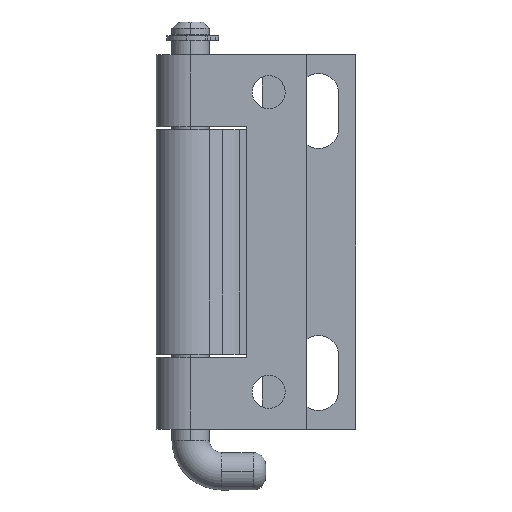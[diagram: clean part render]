
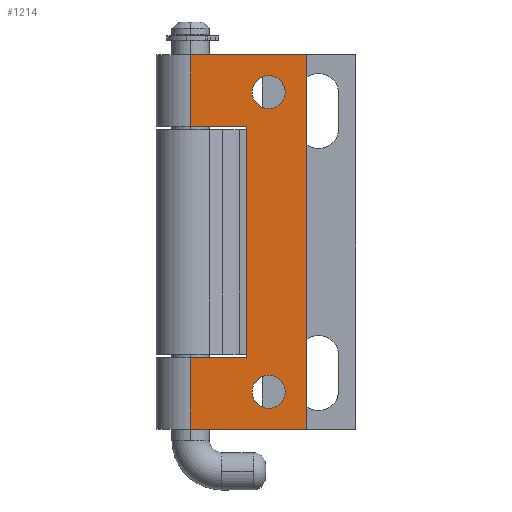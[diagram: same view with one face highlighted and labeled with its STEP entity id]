
A CAD part, top view. The second image highlights one B-rep face of the part: STEP entity #1214.
In plain terms, the highlighted planar face has unit normal (0, 0, 1) as drawn and (1, 0, 0) by its records, which use the part's own axes.
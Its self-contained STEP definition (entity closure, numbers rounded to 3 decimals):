
#931 = VERTEX_POINT ( 'NONE', #3152 ) ;
#950 = VERTEX_POINT ( 'NONE', #3194 ) ;
#952 = EDGE_CURVE ( 'NONE', #1018, #950, #3193, .T. ) ;
#974 = VERTEX_POINT ( 'NONE', #3268 ) ;
#975 = VERTEX_POINT ( 'NONE', #3267 ) ;
#980 = EDGE_CURVE ( 'NONE', #975, #974, #3261, .T. ) ;
#997 = EDGE_CURVE ( 'NONE', #931, #1006, #3294, .T. ) ;
#1006 = VERTEX_POINT ( 'NONE', #3338 ) ;
#1018 = VERTEX_POINT ( 'NONE', #3316 ) ;
#1030 = VERTEX_POINT ( 'NONE', #3396 ) ;
#1033 = EDGE_CURVE ( 'NONE', #1037, #1030, #3394, .T. ) ;
#1037 = VERTEX_POINT ( 'NONE', #3385 ) ;
#1138 = EDGE_CURVE ( 'NONE', #1030, #1037, #3541, .T. ) ;
#1139 = ORIENTED_EDGE ( 'NONE', *, *, #1033, .T. ) ;
#1140 = EDGE_LOOP ( 'NONE', ( #1141, #1143 ) ) ;
#1141 = ORIENTED_EDGE ( 'NONE', *, *, #1142, .T. ) ;
#1142 = EDGE_CURVE ( 'NONE', #974, #975, #3537, .T. ) ;
#1143 = ORIENTED_EDGE ( 'NONE', *, *, #980, .T. ) ;
#1144 = EDGE_LOOP ( 'NONE', ( #1145, #1200, #1202, #1203, #1206, #1209, #1211, #1183 ) ) ;
#1145 = ORIENTED_EDGE ( 'NONE', *, *, #1146, .T. ) ;
#1146 = EDGE_CURVE ( 'NONE', #1198, #1199, #3593, .T. ) ;
#1183 = ORIENTED_EDGE ( 'NONE', *, *, #1184, .T. ) ;
#1184 = EDGE_CURVE ( 'NONE', #950, #1198, #3602, .T. ) ;
#1198 = VERTEX_POINT ( 'NONE', #3638 ) ;
#1199 = VERTEX_POINT ( 'NONE', #3637 ) ;
#1200 = ORIENTED_EDGE ( 'NONE', *, *, #1201, .T. ) ;
#1201 = EDGE_CURVE ( 'NONE', #1199, #931, #3636, .T. ) ;
#1202 = ORIENTED_EDGE ( 'NONE', *, *, #997, .T. ) ;
#1203 = ORIENTED_EDGE ( 'NONE', *, *, #1204, .T. ) ;
#1204 = EDGE_CURVE ( 'NONE', #1006, #1205, #3632, .T. ) ;
#1205 = VERTEX_POINT ( 'NONE', #3697 ) ;
#1206 = ORIENTED_EDGE ( 'NONE', *, *, #1207, .F. ) ;
#1207 = EDGE_CURVE ( 'NONE', #1208, #1205, #3696, .T. ) ;
#1208 = VERTEX_POINT ( 'NONE', #3692 ) ;
#1209 = ORIENTED_EDGE ( 'NONE', *, *, #1210, .F. ) ;
#1210 = EDGE_CURVE ( 'NONE', #1018, #1208, #3691, .T. ) ;
#1211 = ORIENTED_EDGE ( 'NONE', *, *, #952, .T. ) ;
#1214 = ADVANCED_FACE ( 'NONE', ( #3682, #3681, #3680 ), #3679, .F. ) ;
#1215 = EDGE_LOOP ( 'NONE', ( #1216, #1139 ) ) ;
#1216 = ORIENTED_EDGE ( 'NONE', *, *, #1138, .T. ) ;
#3152 = CARTESIAN_POINT ( 'NONE',  ( 5.5, 0., 11.5 ) ) ;
#3190 = DIRECTION ( 'NONE',  ( 0., 0., -1. ) ) ;
#3191 = VECTOR ( 'NONE', #3190, 1000. ) ;
#3192 = CARTESIAN_POINT ( 'NONE',  ( 5.5, 0., 60. ) ) ;
#3193 = LINE ( 'NONE', #3192, #3191 ) ;
#3194 = CARTESIAN_POINT ( 'NONE',  ( 5.5, 0., 48.5 ) ) ;
#3257 = DIRECTION ( 'NONE',  ( 0., 0., 1. ) ) ;
#3258 = DIRECTION ( 'NONE',  ( -1., 0., 0. ) ) ;
#3259 = CARTESIAN_POINT ( 'NONE',  ( 5.5, 12.5, 54. ) ) ;
#3260 = AXIS2_PLACEMENT_3D ( 'NONE', #3259, #3258, #3257 ) ;
#3261 = CIRCLE ( 'NONE', #3260, 2.65 ) ;
#3267 = CARTESIAN_POINT ( 'NONE',  ( 5.5, 15.15, 54. ) ) ;
#3268 = CARTESIAN_POINT ( 'NONE',  ( 5.5, 9.85, 54. ) ) ;
#3291 = DIRECTION ( 'NONE',  ( 0., 0., -1. ) ) ;
#3292 = VECTOR ( 'NONE', #3291, 1000. ) ;
#3293 = CARTESIAN_POINT ( 'NONE',  ( 5.5, 0., 60. ) ) ;
#3294 = LINE ( 'NONE', #3293, #3292 ) ;
#3316 = CARTESIAN_POINT ( 'NONE',  ( 5.5, 0., 60. ) ) ;
#3338 = CARTESIAN_POINT ( 'NONE',  ( 5.5, 0., 0. ) ) ;
#3385 = CARTESIAN_POINT ( 'NONE',  ( 5.5, 15.15, 6. ) ) ;
#3390 = DIRECTION ( 'NONE',  ( 0., 0., 1. ) ) ;
#3391 = DIRECTION ( 'NONE',  ( -1., 0., 0. ) ) ;
#3392 = CARTESIAN_POINT ( 'NONE',  ( 5.5, 12.5, 6. ) ) ;
#3393 = AXIS2_PLACEMENT_3D ( 'NONE', #3392, #3391, #3390 ) ;
#3394 = CIRCLE ( 'NONE', #3393, 2.65 ) ;
#3396 = CARTESIAN_POINT ( 'NONE',  ( 5.5, 9.85, 6. ) ) ;
#3533 = DIRECTION ( 'NONE',  ( 0., 0., 1. ) ) ;
#3534 = DIRECTION ( 'NONE',  ( -1., 0., 0. ) ) ;
#3535 = CARTESIAN_POINT ( 'NONE',  ( 5.5, 12.5, 54. ) ) ;
#3536 = AXIS2_PLACEMENT_3D ( 'NONE', #3535, #3534, #3533 ) ;
#3537 = CIRCLE ( 'NONE', #3536, 2.65 ) ;
#3538 = DIRECTION ( 'NONE',  ( 0., 0., 1. ) ) ;
#3539 = DIRECTION ( 'NONE',  ( -1., 0., 0. ) ) ;
#3540 = AXIS2_PLACEMENT_3D ( 'NONE', #3546, #3539, #3538 ) ;
#3541 = CIRCLE ( 'NONE', #3540, 2.65 ) ;
#3546 = CARTESIAN_POINT ( 'NONE',  ( 5.5, 12.5, 6. ) ) ;
#3590 = DIRECTION ( 'NONE',  ( 0., 0., -1. ) ) ;
#3591 = VECTOR ( 'NONE', #3590, 1000. ) ;
#3592 = CARTESIAN_POINT ( 'NONE',  ( 5.5, 9., 60. ) ) ;
#3593 = LINE ( 'NONE', #3592, #3591 ) ;
#3599 = DIRECTION ( 'NONE',  ( 0., 1., 0. ) ) ;
#3600 = VECTOR ( 'NONE', #3599, 1000. ) ;
#3601 = CARTESIAN_POINT ( 'NONE',  ( 5.5, 0., 48.5 ) ) ;
#3602 = LINE ( 'NONE', #3601, #3600 ) ;
#3629 = DIRECTION ( 'NONE',  ( 0., 1., 0. ) ) ;
#3630 = VECTOR ( 'NONE', #3629, 1000. ) ;
#3631 = CARTESIAN_POINT ( 'NONE',  ( 5.5, 0., 0. ) ) ;
#3632 = LINE ( 'NONE', #3631, #3630 ) ;
#3633 = DIRECTION ( 'NONE',  ( 0., -1., 0. ) ) ;
#3634 = VECTOR ( 'NONE', #3633, 1000. ) ;
#3635 = CARTESIAN_POINT ( 'NONE',  ( 5.5, 0., 11.5 ) ) ;
#3636 = LINE ( 'NONE', #3635, #3634 ) ;
#3637 = CARTESIAN_POINT ( 'NONE',  ( 5.5, 9., 11.5 ) ) ;
#3638 = CARTESIAN_POINT ( 'NONE',  ( 5.5, 9., 48.5 ) ) ;
#3675 = DIRECTION ( 'NONE',  ( 0., 0., 1. ) ) ;
#3676 = DIRECTION ( 'NONE',  ( -1., 0., 0. ) ) ;
#3677 = CARTESIAN_POINT ( 'NONE',  ( 5.5, 0., 60. ) ) ;
#3678 = AXIS2_PLACEMENT_3D ( 'NONE', #3677, #3676, #3675 ) ;
#3679 = PLANE ( 'NONE',  #3678 ) ;
#3680 = FACE_OUTER_BOUND ( 'NONE', #1144, .T. ) ;
#3681 = FACE_BOUND ( 'NONE', #1140, .T. ) ;
#3682 = FACE_BOUND ( 'NONE', #1215, .T. ) ;
#3688 = DIRECTION ( 'NONE',  ( 0., 1., 0. ) ) ;
#3689 = VECTOR ( 'NONE', #3688, 1000. ) ;
#3690 = CARTESIAN_POINT ( 'NONE',  ( 5.5, 0., 60. ) ) ;
#3691 = LINE ( 'NONE', #3690, #3689 ) ;
#3692 = CARTESIAN_POINT ( 'NONE',  ( 5.5, 18.5, 60. ) ) ;
#3693 = DIRECTION ( 'NONE',  ( 0., 0., -1. ) ) ;
#3694 = VECTOR ( 'NONE', #3693, 1000. ) ;
#3695 = CARTESIAN_POINT ( 'NONE',  ( 5.5, 18.5, 60. ) ) ;
#3696 = LINE ( 'NONE', #3695, #3694 ) ;
#3697 = CARTESIAN_POINT ( 'NONE',  ( 5.5, 18.5, 0. ) ) ;
